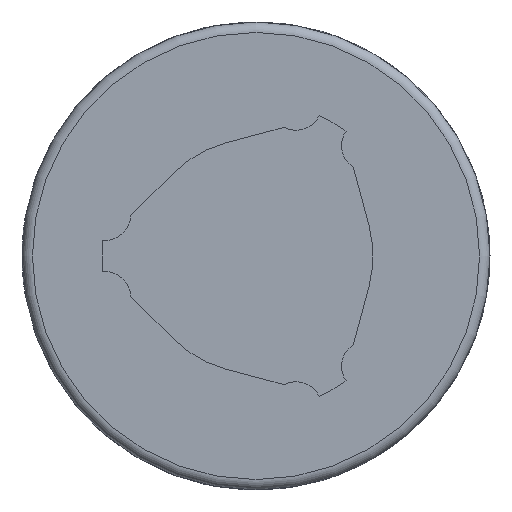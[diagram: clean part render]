
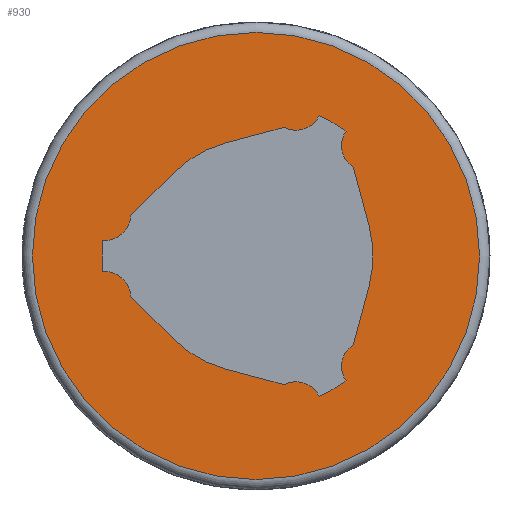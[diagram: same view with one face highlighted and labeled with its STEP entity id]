
A CAD part, left-side view. The second image highlights one B-rep face of the part: STEP entity #930.
In plain terms, the highlighted planar face has unit normal (-1, 0, 0).
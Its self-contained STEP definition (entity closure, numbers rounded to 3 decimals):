
#71=LINE('',#1439,#141);
#72=LINE('',#1448,#142);
#73=LINE('',#1452,#143);
#74=LINE('',#1460,#144);
#75=LINE('',#1464,#145);
#76=LINE('',#1472,#146);
#141=VECTOR('',#1135,1000.);
#142=VECTOR('',#1142,1000.);
#143=VECTOR('',#1145,1000.);
#144=VECTOR('',#1152,1000.);
#145=VECTOR('',#1155,1000.);
#146=VECTOR('',#1162,1000.);
#211=ORIENTED_EDGE('',*,*,#483,.F.);
#212=ORIENTED_EDGE('',*,*,#484,.T.);
#213=ORIENTED_EDGE('',*,*,#485,.F.);
#214=ORIENTED_EDGE('',*,*,#486,.T.);
#215=ORIENTED_EDGE('',*,*,#487,.F.);
#216=ORIENTED_EDGE('',*,*,#488,.T.);
#217=ORIENTED_EDGE('',*,*,#489,.T.);
#218=ORIENTED_EDGE('',*,*,#490,.T.);
#219=ORIENTED_EDGE('',*,*,#491,.F.);
#220=ORIENTED_EDGE('',*,*,#492,.T.);
#221=ORIENTED_EDGE('',*,*,#493,.F.);
#222=ORIENTED_EDGE('',*,*,#494,.T.);
#223=ORIENTED_EDGE('',*,*,#495,.T.);
#224=ORIENTED_EDGE('',*,*,#496,.T.);
#225=ORIENTED_EDGE('',*,*,#497,.F.);
#226=ORIENTED_EDGE('',*,*,#498,.T.);
#227=ORIENTED_EDGE('',*,*,#499,.F.);
#228=ORIENTED_EDGE('',*,*,#500,.T.);
#229=ORIENTED_EDGE('',*,*,#501,.T.);
#483=EDGE_CURVE('',#619,#619,#713,.T.);
#484=EDGE_CURVE('',#620,#621,#71,.T.);
#485=EDGE_CURVE('',#622,#621,#714,.T.);
#486=EDGE_CURVE('',#622,#623,#715,.T.);
#487=EDGE_CURVE('',#624,#623,#716,.T.);
#488=EDGE_CURVE('',#624,#625,#72,.T.);
#489=EDGE_CURVE('',#625,#626,#717,.T.);
#490=EDGE_CURVE('',#626,#627,#73,.T.);
#491=EDGE_CURVE('',#628,#627,#718,.T.);
#492=EDGE_CURVE('',#628,#629,#719,.T.);
#493=EDGE_CURVE('',#630,#629,#720,.T.);
#494=EDGE_CURVE('',#630,#631,#74,.T.);
#495=EDGE_CURVE('',#631,#632,#721,.T.);
#496=EDGE_CURVE('',#632,#633,#75,.T.);
#497=EDGE_CURVE('',#634,#633,#722,.T.);
#498=EDGE_CURVE('',#634,#635,#723,.T.);
#499=EDGE_CURVE('',#636,#635,#724,.T.);
#500=EDGE_CURVE('',#636,#637,#76,.T.);
#501=EDGE_CURVE('',#637,#620,#725,.T.);
#619=VERTEX_POINT('',#1438);
#620=VERTEX_POINT('',#1440);
#621=VERTEX_POINT('',#1441);
#622=VERTEX_POINT('',#1443);
#623=VERTEX_POINT('',#1445);
#624=VERTEX_POINT('',#1447);
#625=VERTEX_POINT('',#1449);
#626=VERTEX_POINT('',#1451);
#627=VERTEX_POINT('',#1453);
#628=VERTEX_POINT('',#1455);
#629=VERTEX_POINT('',#1457);
#630=VERTEX_POINT('',#1459);
#631=VERTEX_POINT('',#1461);
#632=VERTEX_POINT('',#1463);
#633=VERTEX_POINT('',#1465);
#634=VERTEX_POINT('',#1467);
#635=VERTEX_POINT('',#1469);
#636=VERTEX_POINT('',#1471);
#637=VERTEX_POINT('',#1473);
#713=CIRCLE('',#1013,21.5);
#714=CIRCLE('',#1014,2.48);
#715=CIRCLE('',#1015,14.8);
#716=CIRCLE('',#1016,2.48);
#717=CIRCLE('',#1017,11.25);
#718=CIRCLE('',#1018,2.48);
#719=CIRCLE('',#1019,14.8);
#720=CIRCLE('',#1020,2.48);
#721=CIRCLE('',#1021,11.25);
#722=CIRCLE('',#1022,2.48);
#723=CIRCLE('',#1023,14.8);
#724=CIRCLE('',#1024,2.48);
#725=CIRCLE('',#1025,11.25);
#772=EDGE_LOOP('',(#211));
#773=EDGE_LOOP('',(#212,#213,#214,#215,#216,#217,#218,#219,#220,#221,#222,
#223,#224,#225,#226,#227,#228,#229));
#840=FACE_BOUND('',#772,.T.);
#841=FACE_BOUND('',#773,.T.);
#908=PLANE('',#1012);
#930=ADVANCED_FACE('',(#840,#841),#908,.F.);
#1012=AXIS2_PLACEMENT_3D('',#1436,#1131,#1132);
#1013=AXIS2_PLACEMENT_3D('',#1437,#1133,#1134);
#1014=AXIS2_PLACEMENT_3D('',#1442,#1136,#1137);
#1015=AXIS2_PLACEMENT_3D('',#1444,#1138,#1139);
#1016=AXIS2_PLACEMENT_3D('',#1446,#1140,#1141);
#1017=AXIS2_PLACEMENT_3D('',#1450,#1143,#1144);
#1018=AXIS2_PLACEMENT_3D('',#1454,#1146,#1147);
#1019=AXIS2_PLACEMENT_3D('',#1456,#1148,#1149);
#1020=AXIS2_PLACEMENT_3D('',#1458,#1150,#1151);
#1021=AXIS2_PLACEMENT_3D('',#1462,#1153,#1154);
#1022=AXIS2_PLACEMENT_3D('',#1466,#1156,#1157);
#1023=AXIS2_PLACEMENT_3D('',#1468,#1158,#1159);
#1024=AXIS2_PLACEMENT_3D('',#1470,#1160,#1161);
#1025=AXIS2_PLACEMENT_3D('',#1474,#1163,#1164);
#1131=DIRECTION('',(1.,0.,0.));
#1132=DIRECTION('',(0.,1.,0.));
#1133=DIRECTION('',(1.,0.,0.));
#1134=DIRECTION('',(0.,1.,0.));
#1135=DIRECTION('',(0.,-0.966,0.259));
#1136=DIRECTION('',(1.,0.,0.));
#1137=DIRECTION('',(0.,0.,-1.));
#1138=DIRECTION('',(1.,0.,0.));
#1139=DIRECTION('',(0.,0.,-1.));
#1140=DIRECTION('',(1.,0.,0.));
#1141=DIRECTION('',(0.,0.,-1.));
#1142=DIRECTION('',(0.,-0.259,-0.966));
#1143=DIRECTION('',(1.,0.,0.));
#1144=DIRECTION('',(0.,0.,-1.));
#1145=DIRECTION('',(0.,0.259,-0.966));
#1146=DIRECTION('',(1.,0.,0.));
#1147=DIRECTION('',(0.,0.,-1.));
#1148=DIRECTION('',(1.,0.,0.));
#1149=DIRECTION('',(0.,0.,-1.));
#1150=DIRECTION('',(1.,0.,0.));
#1151=DIRECTION('',(0.,0.,-1.));
#1152=DIRECTION('',(0.,0.966,0.259));
#1153=DIRECTION('',(1.,0.,0.));
#1154=DIRECTION('',(0.,0.,-1.));
#1155=DIRECTION('',(0.,0.707,0.707));
#1156=DIRECTION('',(1.,0.,0.));
#1157=DIRECTION('',(0.,0.,-1.));
#1158=DIRECTION('',(1.,0.,0.));
#1159=DIRECTION('',(0.,0.,-1.));
#1160=DIRECTION('',(1.,0.,0.));
#1161=DIRECTION('',(0.,0.,-1.));
#1162=DIRECTION('',(0.,-0.707,0.707));
#1163=DIRECTION('',(1.,0.,0.));
#1164=DIRECTION('',(0.,0.,-1.));
#1436=CARTESIAN_POINT('',(0.,0.,0.));
#1437=CARTESIAN_POINT('',(0.,0.,0.));
#1438=CARTESIAN_POINT('',(0.,21.5,0.));
#1439=CARTESIAN_POINT('',(0.,2.912,10.867));
#1440=CARTESIAN_POINT('',(0.,2.912,10.867));
#1441=CARTESIAN_POINT('',(0.,-2.698,12.37));
#1442=CARTESIAN_POINT('',(0.,-3.833,14.574));
#1443=CARTESIAN_POINT('',(0.,-6.068,13.499));
#1444=CARTESIAN_POINT('',(0.,0.,0.));
#1445=CARTESIAN_POINT('',(0.,-8.656,12.005));
#1446=CARTESIAN_POINT('',(0.,-10.705,10.607));
#1447=CARTESIAN_POINT('',(0.,-9.364,8.521));
#1448=CARTESIAN_POINT('',(0.,-9.364,8.521));
#1449=CARTESIAN_POINT('',(0.,-10.867,2.912));
#1450=CARTESIAN_POINT('',(0.,0.,0.));
#1451=CARTESIAN_POINT('',(0.,-10.867,-2.912));
#1452=CARTESIAN_POINT('',(0.,-10.867,-2.912));
#1453=CARTESIAN_POINT('',(0.,-9.364,-8.521));
#1454=CARTESIAN_POINT('',(0.,-10.705,-10.607));
#1455=CARTESIAN_POINT('',(0.,-8.656,-12.005));
#1456=CARTESIAN_POINT('',(0.,0.,0.));
#1457=CARTESIAN_POINT('',(0.,-6.068,-13.499));
#1458=CARTESIAN_POINT('',(0.,-3.833,-14.574));
#1459=CARTESIAN_POINT('',(0.,-2.698,-12.37));
#1460=CARTESIAN_POINT('',(0.,-2.698,-12.37));
#1461=CARTESIAN_POINT('',(0.,2.912,-10.867));
#1462=CARTESIAN_POINT('',(0.,0.,0.));
#1463=CARTESIAN_POINT('',(0.,7.955,-7.955));
#1464=CARTESIAN_POINT('',(0.,7.955,-7.955));
#1465=CARTESIAN_POINT('',(0.,12.061,-3.849));
#1466=CARTESIAN_POINT('',(0.,14.538,-3.967));
#1467=CARTESIAN_POINT('',(0.,14.724,-1.494));
#1468=CARTESIAN_POINT('',(0.,0.,0.));
#1469=CARTESIAN_POINT('',(0.,14.724,1.494));
#1470=CARTESIAN_POINT('',(0.,14.538,3.967));
#1471=CARTESIAN_POINT('',(0.,12.061,3.849));
#1472=CARTESIAN_POINT('',(0.,12.061,3.849));
#1473=CARTESIAN_POINT('',(0.,7.955,7.955));
#1474=CARTESIAN_POINT('',(0.,0.,0.));
